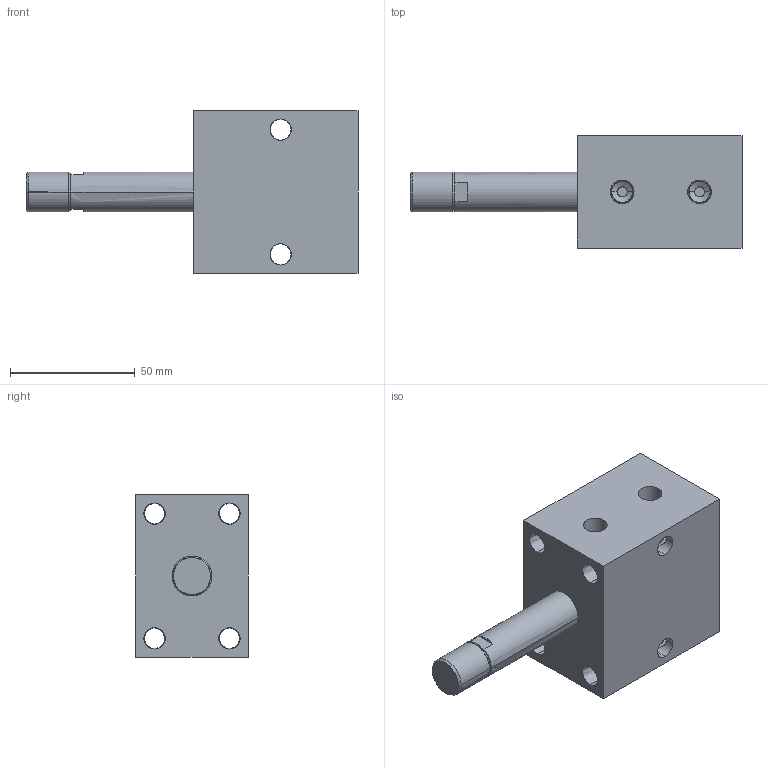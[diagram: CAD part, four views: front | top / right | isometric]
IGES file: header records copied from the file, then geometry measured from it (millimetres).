
Start section: SolidWorks IGES file using analytic representation for surfaces
Global section: file name: C:\Documents and Settings\rajib\Desktop\Rajib\BLOCK CYLINDER HYDRAULIC\0201-0206\0205.IGS; native system: SolidWorks 2007; preprocessor: SolidWorks 2007; author: rajib; date: 110121.094121; units: millimetre
Bounding box: 133 x 45 x 65 mm (x, y, z)
Surface area: 33256.3 mm2 (no closed solid volume)
Topology: 0 solids, 0 shells, 76 faces, 1704 edges, 1704 vertices
Faces by surface type: revolution 54, bspline 22
